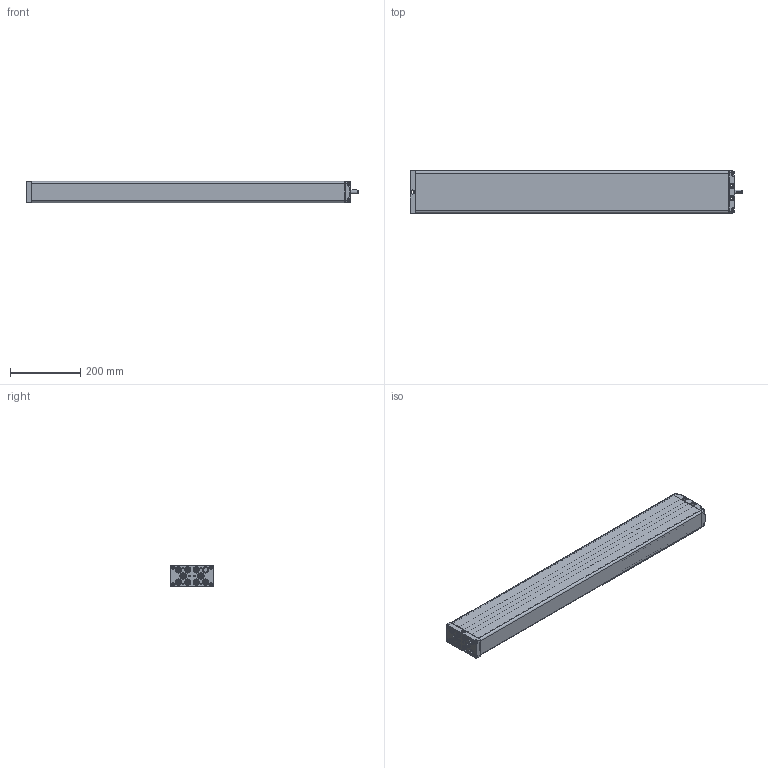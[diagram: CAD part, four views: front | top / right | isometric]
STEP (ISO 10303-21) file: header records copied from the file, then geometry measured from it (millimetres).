
FILE_DESCRIPTION(/* description */ ('Unknown'),/* implementation_level */ '2;1');
FILE_NAME(/* name */ '102.00186 Pumpe PB 9440 W',/* time_stamp */ '2016-11-25T13:58:20+01:00',/* author */ ('Unknown'),/* organization */ ('Unknown'),/* preprocessor_version */ 'ST-DEVELOPER v16.7',/* originating_system */ 'DEX',/* authorisation */ $);
FILE_SCHEMA (('AUTOMOTIVE_DESIGN {1 0 10303 214 3 1 1}'));
Products named in the file (15): 102.00186; 115.10027; 125.00031; 115.00007; 142.00021; 125.00021; 142.00013; 125.00147; 115.00140; 126.00006; 122.00040; 119.00047; 126.00036; 142.00057; 142.00017
Assembly tree (30 placements, depth 3):
  102.00186
    115.10027  x9
      125.00031
      115.00007
      142.00021
      125.00021
    142.00013  x8
    125.00147
    115.00140
      126.00006
      122.00040
    119.00047
    126.00036
    142.00057
    142.00017  x2
Bounding box: 945.5 x 120 x 60.3 mm (x, y, z)
Volume: 1106232.1 mm3; surface area: 775597.1 mm2
Topology: 43 solids, 43 shells, 2145 faces, 4905 edges, 2875 vertices
Faces by surface type: plane 747, cylinder 494, bspline 377, cone 364, torus 104, sphere 59
Full cylindrical faces by diameter (mm): 3.5 x9, 4.1 x9, 4.134 x4, 4.2 x9, 4.917 x2, 5 x8, 5.8 x4, 6 x2, 6.8 x1, 6.917 x18, 8 x19, 9 x9, 9.8 x8, 10 x5, 10.4 x1, 10.5 x4, 12.5 x9, 13 x28, 13.9 x18, 14 x1, 18 x11, 19 x1
Entity records: 59901 total; most frequent: CARTESIAN_POINT 28815, ORIENTED_EDGE 5026, DIRECTION 4367, EDGE_CURVE 2513, AXIS2_PLACEMENT_3D 1696, VERTEX_POINT 1584, FACE_BOUND 1391, EDGE_LOOP 1390
